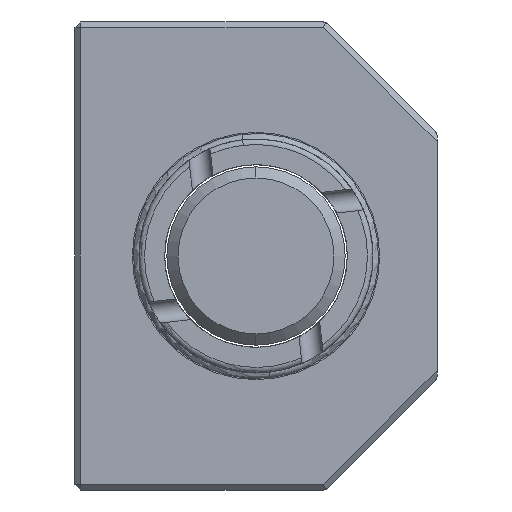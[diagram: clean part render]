
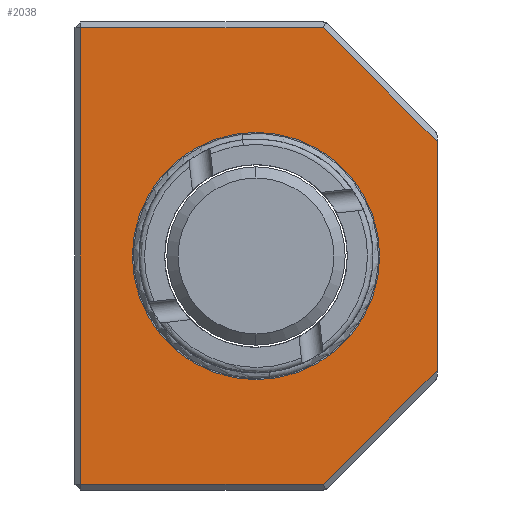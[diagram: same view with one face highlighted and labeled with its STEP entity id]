
A CAD part, left-side view. The second image highlights one B-rep face of the part: STEP entity #2038.
In plain terms, the highlighted planar face has unit normal (-1, 0, 0).
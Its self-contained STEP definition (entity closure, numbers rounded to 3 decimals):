
#117 = DIRECTION ( 'NONE',  ( 1., 0., 0. ) ) ;
#179 = ORIENTED_EDGE ( 'NONE', *, *, #512, .T. ) ;
#190 = VERTEX_POINT ( 'NONE', #765 ) ;
#222 = VECTOR ( 'NONE', #1581, 1000. ) ;
#271 = DIRECTION ( 'NONE',  ( 0., 0.707, 0.707 ) ) ;
#276 = FACE_OUTER_BOUND ( 'NONE', #304, .T. ) ;
#304 = EDGE_LOOP ( 'NONE', ( #1841, #3407, #3851, #1542, #1007, #653 ) ) ;
#412 = CARTESIAN_POINT ( 'NONE',  ( 0., -6.043, 20.5 ) ) ;
#418 = EDGE_CURVE ( 'NONE', #1398, #3866, #3510, .T. ) ;
#426 = CARTESIAN_POINT ( 'NONE',  ( 0., -16.25, 21. ) ) ;
#429 = CIRCLE ( 'NONE', #3586, 11.1 ) ;
#431 = DIRECTION ( 'NONE',  ( 0., 0., -1. ) ) ;
#434 = CARTESIAN_POINT ( 'NONE',  ( 0., 0., -11.1 ) ) ;
#477 = FACE_BOUND ( 'NONE', #3640, .T. ) ;
#482 = VECTOR ( 'NONE', #3991, 1000. ) ;
#512 = EDGE_CURVE ( 'NONE', #784, #3252, #3070, .T. ) ;
#529 = AXIS2_PLACEMENT_3D ( 'NONE', #3696, #117, #2359 ) ;
#598 = EDGE_CURVE ( 'NONE', #2166, #1398, #2807, .T. ) ;
#653 = ORIENTED_EDGE ( 'NONE', *, *, #1061, .T. ) ;
#765 = CARTESIAN_POINT ( 'NONE',  ( 0., 15.75, -20.5 ) ) ;
#784 = VERTEX_POINT ( 'NONE', #434 ) ;
#813 = LINE ( 'NONE', #1026, #1810 ) ;
#830 = DIRECTION ( 'NONE',  ( 0., 1., 0. ) ) ;
#868 = CARTESIAN_POINT ( 'NONE',  ( 0., -13.271, 13.271 ) ) ;
#1007 = ORIENTED_EDGE ( 'NONE', *, *, #418, .T. ) ;
#1026 = CARTESIAN_POINT ( 'NONE',  ( 0., 0., -20.5 ) ) ;
#1061 = EDGE_CURVE ( 'NONE', #3866, #190, #1903, .T. ) ;
#1207 = ORIENTED_EDGE ( 'NONE', *, *, #1408, .T. ) ;
#1374 = DIRECTION ( 'NONE',  ( 1., 0., 0. ) ) ;
#1387 = DIRECTION ( 'NONE',  ( 0., 0., -1. ) ) ;
#1398 = VERTEX_POINT ( 'NONE', #412 ) ;
#1408 = EDGE_CURVE ( 'NONE', #3252, #784, #429, .T. ) ;
#1542 = ORIENTED_EDGE ( 'NONE', *, *, #598, .T. ) ;
#1581 = DIRECTION ( 'NONE',  ( 0., -0.707, 0.707 ) ) ;
#1641 = AXIS2_PLACEMENT_3D ( 'NONE', #3511, #4126, #3154 ) ;
#1783 = CARTESIAN_POINT ( 'NONE',  ( 0., 0., 20.5 ) ) ;
#1810 = VECTOR ( 'NONE', #3571, 1000. ) ;
#1841 = ORIENTED_EDGE ( 'NONE', *, *, #3628, .T. ) ;
#1903 = LINE ( 'NONE', #3051, #482 ) ;
#1948 = VECTOR ( 'NONE', #271, 1000. ) ;
#2038 = ADVANCED_FACE ( 'NONE', ( #276, #477 ), #3356, .F. ) ;
#2057 = LINE ( 'NONE', #426, #3945 ) ;
#2166 = VERTEX_POINT ( 'NONE', #3739 ) ;
#2230 = EDGE_CURVE ( 'NONE', #2166, #2882, #2057, .T. ) ;
#2359 = DIRECTION ( 'NONE',  ( 0., 0., -1. ) ) ;
#2606 = EDGE_CURVE ( 'NONE', #3195, #2882, #2755, .T. ) ;
#2755 = LINE ( 'NONE', #2875, #222 ) ;
#2776 = CARTESIAN_POINT ( 'NONE',  ( 0., 15.75, 20.5 ) ) ;
#2807 = LINE ( 'NONE', #868, #1948 ) ;
#2875 = CARTESIAN_POINT ( 'NONE',  ( 0., -15.896, -10.646 ) ) ;
#2882 = VERTEX_POINT ( 'NONE', #3886 ) ;
#3051 = CARTESIAN_POINT ( 'NONE',  ( 0., 15.75, 0. ) ) ;
#3070 = CIRCLE ( 'NONE', #1641, 11.1 ) ;
#3154 = DIRECTION ( 'NONE',  ( 0., 0., -1. ) ) ;
#3195 = VERTEX_POINT ( 'NONE', #3447 ) ;
#3252 = VERTEX_POINT ( 'NONE', #3746 ) ;
#3258 = VECTOR ( 'NONE', #830, 1000. ) ;
#3279 = CARTESIAN_POINT ( 'NONE',  ( 0., 0., 0. ) ) ;
#3356 = PLANE ( 'NONE',  #529 ) ;
#3407 = ORIENTED_EDGE ( 'NONE', *, *, #2606, .T. ) ;
#3447 = CARTESIAN_POINT ( 'NONE',  ( 0., -6.043, -20.5 ) ) ;
#3510 = LINE ( 'NONE', #1783, #3258 ) ;
#3511 = CARTESIAN_POINT ( 'NONE',  ( 0., 0., 0. ) ) ;
#3571 = DIRECTION ( 'NONE',  ( 0., -1., 0. ) ) ;
#3586 = AXIS2_PLACEMENT_3D ( 'NONE', #3279, #1374, #431 ) ;
#3628 = EDGE_CURVE ( 'NONE', #190, #3195, #813, .T. ) ;
#3640 = EDGE_LOOP ( 'NONE', ( #1207, #179 ) ) ;
#3696 = CARTESIAN_POINT ( 'NONE',  ( 0., 0., 0. ) ) ;
#3739 = CARTESIAN_POINT ( 'NONE',  ( 0., -16.25, 10.293 ) ) ;
#3746 = CARTESIAN_POINT ( 'NONE',  ( 0., 0., 11.1 ) ) ;
#3851 = ORIENTED_EDGE ( 'NONE', *, *, #2230, .F. ) ;
#3866 = VERTEX_POINT ( 'NONE', #2776 ) ;
#3886 = CARTESIAN_POINT ( 'NONE',  ( 0., -16.25, -10.293 ) ) ;
#3945 = VECTOR ( 'NONE', #1387, 1000. ) ;
#3991 = DIRECTION ( 'NONE',  ( 0., 0., -1. ) ) ;
#4126 = DIRECTION ( 'NONE',  ( 1., 0., 0. ) ) ;
